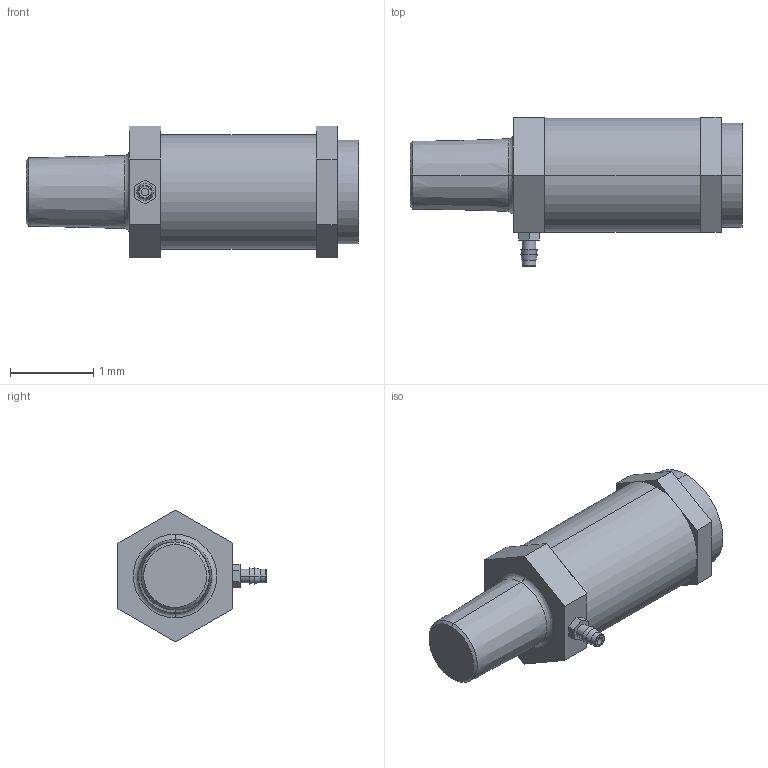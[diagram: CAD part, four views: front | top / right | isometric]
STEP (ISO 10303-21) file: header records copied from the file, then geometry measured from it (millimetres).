
FILE_DESCRIPTION((''),'2;1');
FILE_NAME('UE3.stp','2017-11-07T13:23:06',(''),(''),'Mechanical Desktop 2011','Mechanical Desktop 2011',', , ');
FILE_SCHEMA(('CONFIG_CONTROL_DESIGN'));
Length unit declared in the file: millimetre
Products named in the file (1): Product
Bounding box: 4 x 1.78 x 1.59 mm (x, y, z)
Volume: 4.8 mm3; surface area: 27.6 mm2
Topology: 5 solids, 5 shells, 54 faces, 112 edges, 72 vertices
Faces by surface type: plane 32, cylinder 10, cone 8, torus 2, bspline 2
Entity records: 1603 total; most frequent: CARTESIAN_POINT 327, DIRECTION 258, ORIENTED_EDGE 224, EDGE_CURVE 112, AXIS2_PLACEMENT_3D 93, VERTEX_POINT 72, VECTOR 72, LINE 72
